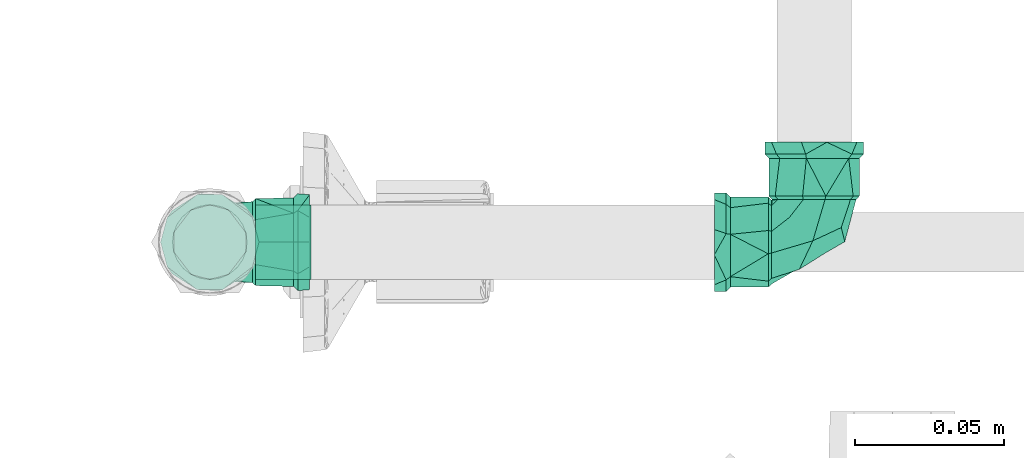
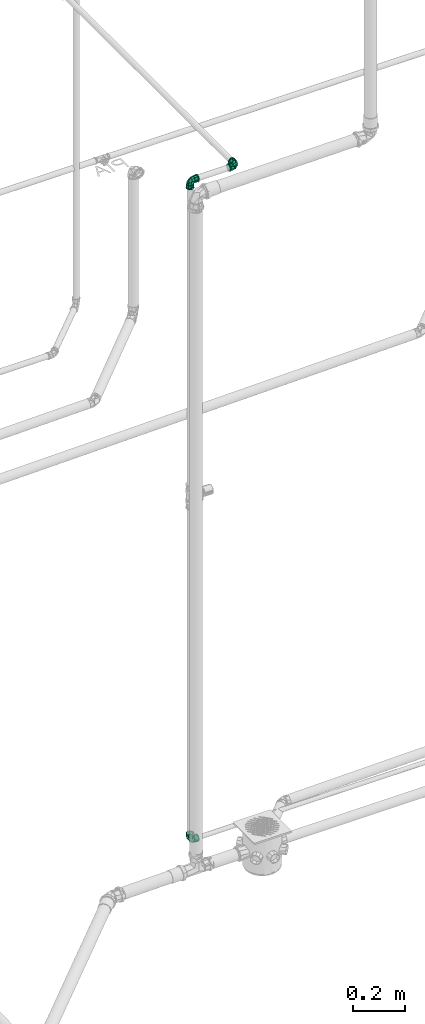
# One storey, part 307 of 589: 4 flow fittings.
"""IFC2X3 building model written with IfcOpenShell, lengths in millimetres."""

from ifc_helpers import new_model, entity, si_unit, converted_unit, derived_unit, direction, frame, frame_2d, origin, place, context, subcontext, project, spatial, hollow_circle, extrude, faceted_brep, source, transform, mapped, material, type_object, type_shapes, element, save


model = new_model("IFC2X3")

# Units and contexts
model_context = context("Model", 3, precision=0.01, world=origin(), true_north=direction((6.123031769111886e-17, 1.0)))
body_context = subcontext(model_context, "Body", "Model", "MODEL_VIEW")
ifc_project = project(units=[si_unit("LENGTHUNIT", "METRE", prefix="MILLI"), si_unit("AREAUNIT", "SQUARE_METRE"), si_unit("VOLUMEUNIT", "CUBIC_METRE"), converted_unit("PLANEANGLEUNIT", "DEGREE", entity("IfcRatioMeasure", 0.017453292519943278), si_unit("PLANEANGLEUNIT", "RADIAN"), dimensions=[0, 0, 0, 0, 0, 0, 0]), si_unit("MASSUNIT", "GRAM", prefix="KILO"), derived_unit("MASSDENSITYUNIT", [(si_unit("MASSUNIT", "GRAM", prefix="KILO"), 1), (si_unit("LENGTHUNIT", "METRE"), -3)]), derived_unit("IONCONCENTRATIONUNIT", [(si_unit("MASSUNIT", "GRAM", prefix="KILO"), 1), (si_unit("LENGTHUNIT", "METRE"), -3)]), derived_unit("MOMENTOFINERTIAUNIT", [(si_unit("LENGTHUNIT", "METRE"), 4)]), si_unit("TIMEUNIT", "SECOND"), si_unit("FREQUENCYUNIT", "HERTZ"), si_unit("THERMODYNAMICTEMPERATUREUNIT", "DEGREE_CELSIUS"), derived_unit("THERMALTRANSMITTANCEUNIT", [(si_unit("MASSUNIT", "GRAM", prefix="KILO"), 1), (si_unit("THERMODYNAMICTEMPERATUREUNIT", "KELVIN"), -1), (si_unit("TIMEUNIT", "SECOND"), -3)]), derived_unit("THERMALCONDUCTANCEUNIT", [(si_unit("MASSUNIT", "GRAM", prefix="KILO"), 1), (si_unit("THERMODYNAMICTEMPERATUREUNIT", "KELVIN"), -1), (si_unit("TIMEUNIT", "SECOND"), -3), (si_unit("LENGTHUNIT", "METRE"), 1)]), derived_unit("VOLUMETRICFLOWRATEUNIT", [(si_unit("LENGTHUNIT", "METRE"), 3), (si_unit("TIMEUNIT", "SECOND"), -1)]), derived_unit("MASSFLOWRATEUNIT", [(si_unit("MASSUNIT", "GRAM", prefix="KILO"), 1), (si_unit("TIMEUNIT", "SECOND"), -1)]), derived_unit("ROTATIONALFREQUENCYUNIT", [(si_unit("TIMEUNIT", "SECOND"), -1)]), si_unit("ELECTRICCURRENTUNIT", "AMPERE"), si_unit("ELECTRICVOLTAGEUNIT", "VOLT"), si_unit("POWERUNIT", "WATT"), si_unit("FORCEUNIT", "NEWTON", prefix="KILO"), si_unit("ILLUMINANCEUNIT", "LUX"), si_unit("LUMINOUSFLUXUNIT", "LUMEN"), si_unit("LUMINOUSINTENSITYUNIT", "CANDELA"), derived_unit("USERDEFINED", [(si_unit("MASSUNIT", "GRAM", prefix="KILO"), -1), (si_unit("LENGTHUNIT", "METRE"), -2), (si_unit("TIMEUNIT", "SECOND"), 3), (si_unit("LUMINOUSFLUXUNIT", "LUMEN"), 1)]), derived_unit("USERDEFINED", [(si_unit("MASSUNIT", "GRAM", prefix="KILO"), 1), (si_unit("TIMEUNIT", "SECOND"), -3), (si_unit("LENGTHUNIT", "METRE"), 3), (si_unit("ELECTRICCURRENTUNIT", "AMPERE"), -2)]), derived_unit("SOUNDPOWERUNIT", [(si_unit("MASSUNIT", "GRAM", prefix="KILO"), 1), (si_unit("TIMEUNIT", "SECOND"), -3), (si_unit("LENGTHUNIT", "METRE"), 2)]), derived_unit("SOUNDPRESSUREUNIT", [(si_unit("MASSUNIT", "GRAM", prefix="KILO"), 1), (si_unit("LENGTHUNIT", "METRE"), -1), (si_unit("TIMEUNIT", "SECOND"), -2)]), derived_unit("LINEARVELOCITYUNIT", [(si_unit("LENGTHUNIT", "METRE"), 1), (si_unit("TIMEUNIT", "SECOND"), -1)]), si_unit("PRESSUREUNIT", "PASCAL"), derived_unit("USERDEFINED", [(si_unit("MASSUNIT", "GRAM", prefix="KILO"), 1), (si_unit("LENGTHUNIT", "METRE"), -2), (si_unit("TIMEUNIT", "SECOND"), -2)]), derived_unit("LINEARFORCEUNIT", [(si_unit("MASSUNIT", "GRAM", prefix="KILO"), 1), (si_unit("TIMEUNIT", "SECOND"), -2)]), derived_unit("PLANARFORCEUNIT", [(si_unit("MASSUNIT", "GRAM", prefix="KILO"), 1), (si_unit("LENGTHUNIT", "METRE"), -1), (si_unit("TIMEUNIT", "SECOND"), -2)]), derived_unit("SPECIFICHEATCAPACITYUNIT", [(si_unit("THERMODYNAMICTEMPERATUREUNIT", "KELVIN"), -1), (si_unit("LENGTHUNIT", "METRE"), 2), (si_unit("TIMEUNIT", "SECOND"), -2)]), derived_unit("HEATINGVALUEUNIT", [(si_unit("LENGTHUNIT", "METRE"), 2), (si_unit("TIMEUNIT", "SECOND"), -2)]), derived_unit("VAPORPERMEABILITYUNIT", [(si_unit("LENGTHUNIT", "METRE"), -1), (si_unit("TIMEUNIT", "SECOND"), 1)]), derived_unit("DYNAMICVISCOSITYUNIT", [(si_unit("MASSUNIT", "GRAM", prefix="KILO"), 1), (si_unit("TIMEUNIT", "SECOND"), -1), (si_unit("LENGTHUNIT", "METRE"), -1)]), derived_unit("THERMALEXPANSIONCOEFFICIENTUNIT", [(si_unit("THERMODYNAMICTEMPERATUREUNIT", "KELVIN"), -1)]), derived_unit("MODULUSOFELASTICITYUNIT", [(si_unit("MASSUNIT", "GRAM", prefix="KILO"), 1), (si_unit("LENGTHUNIT", "METRE"), -1), (si_unit("TIMEUNIT", "SECOND"), -2)]), derived_unit("ISOTHERMALMOISTURECAPACITYUNIT", [(si_unit("LENGTHUNIT", "METRE"), 3), (si_unit("MASSUNIT", "GRAM", prefix="KILO"), -1)]), derived_unit("MOISTUREDIFFUSIVITYUNIT", [(si_unit("TIMEUNIT", "SECOND"), -1), (si_unit("LENGTHUNIT", "METRE"), 2)])], contexts=[model_context])

# Site, building, storey
site_placement = place(None, origin())
site = spatial("IfcSite", under=ifc_project, at=site_placement, Name="Default", CompositionType="ELEMENT")
building_placement = place(site_placement, origin())
building = spatial("IfcBuilding", under=site, at=building_placement, CompositionType="ELEMENT")
storey_placement = place(building_placement, frame((0.0, 0.0, 100.0)))
storey = spatial("IfcBuildingStorey", under=building, at=storey_placement, Name="TÉRREO", CompositionType="ELEMENT", Elevation=100.0)

# Flow fittings
ifc_material = material(Name="PVC Marrom")
pipe_fitting_type_1 = type_object("IfcPipeFittingType", Name="PVC Marrom Soldável_Joelho 45°_90°_Rodrigo MEP:Joelho", PredefinedType="NOTDEFINED", material=ifc_material)
shared_shape_1 = source(origin(), body_context, "Body", "Brep", [
    faceted_brep([(3.908167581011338, 15.40000000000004, 14.585479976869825), (13.076983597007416, 15.40000000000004, 7.549999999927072), (15.099999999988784, 15.40000000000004, 0.0), (13.076983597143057, 15.40000000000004, -7.55000000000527), (3.9081675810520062, 15.40000000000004, -14.585479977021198), (-3.9081675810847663, 15.40000000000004, -14.585479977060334), (-13.076983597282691, 15.40000000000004, -7.550000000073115), (-15.100000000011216, 15.40000000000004, 0.0), (-13.076983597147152, 15.40000000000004, 7.549999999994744), (-3.908167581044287, 15.40000000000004, 14.585479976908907), (-3.633819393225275, 14.30000000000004, 13.561598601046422), (-12.158996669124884, 14.30000000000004, 7.0199999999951), (-14.040000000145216, 14.30000000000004, 0.0), (-12.158996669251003, 14.30000000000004, -7.020000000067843), (-3.6338193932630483, 14.30000000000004, -13.561598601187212), (3.6338193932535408, 14.30000000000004, -13.561598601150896), (12.158996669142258, 14.30000000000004, -7.020000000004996), (14.039999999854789, 14.30000000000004, 0.0), (12.158996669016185, 14.30000000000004, 7.0199999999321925), (3.6338193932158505, 14.30000000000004, 13.561598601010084)], [[[0, 1, 2, 3, 4, 5, 6, 7, 8, 9]], [[10, 11, 12, 13, 14, 15, 16, 17, 18, 19]], [[3, 17, 16]], [[4, 3, 16, 15]], [[3, 2, 17]], [[15, 14, 5, 4]], [[6, 5, 14, 13]], [[7, 13, 12]], [[7, 6, 13]], [[8, 12, 11]], [[9, 8, 11, 10]], [[8, 7, 12]], [[10, 19, 0, 9]], [[1, 0, 19, 18]], [[2, 18, 17]], [[2, 1, 18]]]),
    faceted_brep([(-15.399999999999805, 3.908167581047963, 14.585479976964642), (-15.399999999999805, 13.076983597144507, 7.549999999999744), (-15.399999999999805, 15.100000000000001, 0.0), (-15.399999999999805, 13.076983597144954, -7.54999999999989), (-15.399999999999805, 3.9081675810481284, -14.58547997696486), (-15.399999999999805, -3.9081675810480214, -14.585479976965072), (-15.399999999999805, -13.0769835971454, -7.550000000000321), (-15.399999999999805, -15.099999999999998, 0.0), (-15.399999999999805, -13.076983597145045, 7.550000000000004), (-15.399999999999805, -3.908167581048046, 14.585479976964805), (-14.299999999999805, 12.158996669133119, 7.019999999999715), (-14.299999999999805, 3.6338193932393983, 13.561598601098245), (-14.299999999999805, -3.633819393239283, 13.56159860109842), (-14.299999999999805, -12.15899666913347, 7.020000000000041), (-14.299999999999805, -14.040000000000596, 0.0), (-14.299999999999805, -12.158996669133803, -7.020000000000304), (-14.299999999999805, -3.63381939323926, -13.561598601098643), (-14.299999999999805, 3.6338193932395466, -13.56159860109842), (-14.299999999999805, 12.158996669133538, -7.019999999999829), (-14.299999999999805, 14.03999999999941, 0.0)], [[[0, 1, 2, 3, 4, 5, 6, 7, 8, 9]], [[10, 11, 12, 13, 14, 15, 16, 17, 18, 19]], [[3, 2, 19, 18]], [[4, 3, 18, 17]], [[17, 16, 5, 4]], [[6, 5, 16, 15]], [[7, 6, 15, 14]], [[8, 7, 14, 13]], [[9, 8, 13, 12]], [[12, 11, 0, 9]], [[1, 0, 11, 10]], [[2, 1, 10, 19]]]),
    faceted_brep([(-33.4999999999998, -4.2705142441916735, -15.937776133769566), (-33.4999999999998, -6.250000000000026, -10.825317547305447), (-33.4999999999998, 0.0, -12.5), (-33.4999999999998, -14.289419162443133, -8.25000000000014), (-33.4999999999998, 4.270514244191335, -15.937776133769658), (-33.4999999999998, -12.074072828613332, -3.23523806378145), (-33.4999999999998, -16.499999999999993, 0.0), (-33.4999999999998, -12.074072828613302, 3.2352380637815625), (-33.4999999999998, -14.289419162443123, 8.249999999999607), (-33.4999999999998, -6.249999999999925, 10.825317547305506), (-33.4999999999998, -4.27051424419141, 15.937776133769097), (-33.4999999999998, 0.0, 12.5), (-33.4999999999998, 4.270514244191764, 15.937776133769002), (-33.4999999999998, 6.249999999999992, 10.825317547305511), (-33.4999999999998, 14.28941916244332, 8.249999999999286), (-33.4999999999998, 12.074072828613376, 3.2352380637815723), (-33.4999999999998, 16.500000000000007, 0.0), (-33.4999999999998, 12.074072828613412, -3.235238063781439), (-33.4999999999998, 14.289419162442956, -8.250000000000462), (-33.4999999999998, 6.250000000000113, -10.82531754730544), (-29.499999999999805, 16.5, 0.0), (-29.500000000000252, 12.639142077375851, 10.606700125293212), (-29.50000000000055, 2.8633833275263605, 16.249647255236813), (-29.50000000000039, -12.64180232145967, 10.603529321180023), (-29.499999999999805, -16.499999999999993, 0.0), (-29.500000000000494, -4.889209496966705, 13.426588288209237), (-29.49999999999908, -12.641802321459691, -10.603529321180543), (-29.49999999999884, -2.8674593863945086, -16.24892847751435), (-29.499999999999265, 12.639142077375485, -10.606700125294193), (-29.499999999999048, 4.885841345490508, -13.427814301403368), (-28.099999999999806, -15.099999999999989, 0.0), (-28.10000000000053, -11.56916454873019, 9.703835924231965), (-28.100000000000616, -4.474367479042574, 12.287362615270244), (-28.1000000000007, 2.6204295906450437, 14.870889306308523), (-28.100000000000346, 11.566730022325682, 9.706737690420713), (-28.09999999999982, 15.099999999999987, 0.0), (-28.099999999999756, 11.566730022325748, -9.706737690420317), (-28.09999999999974, 4.4712851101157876, -12.28848460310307), (-28.09999999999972, -2.6241598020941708, -14.870231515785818), (-28.09999999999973, -11.569164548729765, -9.703835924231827), (-15.399999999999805, 0.0, -12.5), (-15.399999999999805, -6.250000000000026, -10.825317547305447), (-15.399999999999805, -3.908167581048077, -14.585479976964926), (-15.399999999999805, 3.9081675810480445, -14.585479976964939), (-15.399999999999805, 6.250000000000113, -10.82531754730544), (-15.399999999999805, -13.076983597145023, -7.549999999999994), (-15.399999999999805, -12.074072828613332, -3.23523806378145), (-15.399999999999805, -15.099999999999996, 0.0), (-15.399999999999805, -12.074072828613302, 3.2352380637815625), (-15.399999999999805, -13.076983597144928, 7.550000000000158), (-15.399999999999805, -6.249999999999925, 10.825317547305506), (-15.399999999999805, -3.9081675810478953, 14.585479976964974), (-15.399999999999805, 0.0, 12.5), (-15.399999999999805, 3.9081675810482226, 14.58547997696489), (-15.399999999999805, 6.249999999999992, 10.825317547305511), (-15.399999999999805, 13.076983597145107, 7.549999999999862), (-15.399999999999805, 12.074072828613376, 3.2352380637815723), (-15.399999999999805, 15.100000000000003, 0.0), (-15.399999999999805, 12.074072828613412, -3.235238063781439), (-15.399999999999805, 13.076983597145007, -7.550000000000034)], [[[0, 1, 2]], [[1, 0, 3]], [[2, 4, 0]], [[3, 5, 1]], [[3, 6, 5]], [[5, 6, 7]], [[8, 7, 6]], [[7, 8, 9]], [[10, 9, 8]], [[9, 10, 11]], [[11, 10, 12]], [[12, 13, 11]], [[14, 13, 12]], [[13, 14, 15]], [[16, 15, 14]], [[16, 17, 15]], [[18, 17, 16]], [[19, 17, 18]], [[19, 18, 4]], [[4, 2, 19]], [[16, 14, 20]], [[14, 21, 20]], [[21, 14, 12]], [[21, 12, 22]], [[23, 10, 8]], [[24, 8, 6]], [[10, 23, 25, 22]], [[23, 8, 24]], [[10, 22, 12]], [[6, 3, 24]], [[3, 26, 24]], [[26, 3, 0]], [[26, 0, 27]], [[28, 4, 18]], [[20, 18, 16]], [[4, 28, 29, 27]], [[28, 18, 20]], [[4, 27, 0]], [[30, 31, 23, 24]], [[31, 32, 33, 22, 25, 23]], [[34, 35, 20, 21]], [[34, 21, 22, 33]], [[35, 36, 28, 20]], [[36, 37, 38, 27, 29, 28]], [[39, 30, 24, 26]], [[39, 26, 27, 38]], [[40, 41, 42]], [[42, 43, 40]], [[44, 40, 43]], [[45, 42, 41]], [[41, 46, 45]], [[46, 47, 45]], [[48, 47, 46]], [[47, 48, 49]], [[50, 49, 48]], [[49, 50, 51]], [[52, 51, 50]], [[53, 51, 52]], [[52, 54, 53]], [[53, 54, 55]], [[56, 55, 54]], [[55, 56, 57]], [[56, 58, 57]], [[59, 58, 44]], [[57, 58, 59]], [[43, 59, 44]], [[35, 34, 55]], [[35, 55, 57]], [[55, 34, 53]], [[34, 33, 53]], [[51, 33, 32, 31]], [[49, 31, 30]], [[31, 49, 51]], [[49, 30, 47]], [[33, 51, 53]], [[30, 39, 45]], [[30, 45, 47]], [[45, 39, 42]], [[39, 38, 42]], [[43, 38, 37, 36]], [[59, 36, 35]], [[36, 59, 43]], [[59, 35, 57]], [[38, 43, 42]], [[9, 11, 52, 50]], [[7, 9, 50, 48]], [[48, 46, 5, 7]], [[1, 5, 46, 41]], [[2, 1, 41, 40]], [[19, 2, 40, 44]], [[17, 19, 44, 58]], [[58, 56, 15, 17]], [[13, 15, 56, 54]], [[11, 13, 54, 52]]]),
    faceted_brep([(-14.299999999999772, -3.6338193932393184, -13.561598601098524), (-14.299999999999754, -12.158996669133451, -7.020000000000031), (-14.29999999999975, -14.039999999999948, 0.0), (-14.299999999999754, -12.158996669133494, 7.019999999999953), (-14.299999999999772, -3.6338193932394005, 13.561598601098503), (-14.299999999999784, 3.633819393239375, 13.561598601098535), (-14.299999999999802, 12.158996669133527, 7.0200000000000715), (-14.299999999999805, 14.04000000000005, 0.0), (-14.299999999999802, 12.158996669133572, -7.019999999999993), (-14.299999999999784, 3.63381939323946, -13.561598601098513), (3.633819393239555, 14.29999999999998, -13.561598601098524), (-3.633819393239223, 14.300000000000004, -13.561598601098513), (-12.158996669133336, 14.300000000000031, -7.019999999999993), (-14.039999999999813, 14.300000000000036, 0.0), (-12.158996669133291, 14.300000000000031, 7.0200000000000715), (-3.6338193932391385, 14.300000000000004, 13.561598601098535), (3.6338193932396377, 14.29999999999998, 13.561598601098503), (12.158996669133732, 14.299999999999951, 7.019999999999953), (14.040000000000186, 14.299999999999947, 0.0), (12.158996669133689, 14.299999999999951, -7.020000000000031), (-0.45476175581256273, 0.4547603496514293, 13.009299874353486), (-4.991226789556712, -9.102895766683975, 8.866254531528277), (-2.689013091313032, -7.336393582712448, 0.0), (3.7770734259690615, -3.6031967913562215, 0.0), (9.09033094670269, 4.905775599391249, 8.841582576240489), (10.243159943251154, 0.13000000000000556, 0.0), (-14.116152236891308, 14.116152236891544, 0.0), (-8.296884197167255, 8.29688403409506, 12.78130953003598), (-0.454761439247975, 0.45476027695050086, -13.009299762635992), (-8.296884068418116, 8.296883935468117, -12.78130960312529), (9.090330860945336, 4.90577564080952, -8.84158269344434), (-4.991226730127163, -9.10289574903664, -8.866254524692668)], [[[0, 1, 2, 3, 4, 5, 6, 7, 8, 9]], [[10, 11, 12, 13, 14, 15, 16, 17, 18, 19]], [[4, 20, 5]], [[21, 3, 22]], [[20, 4, 21]], [[21, 22, 23]], [[17, 24, 25]], [[26, 6, 14]], [[23, 20, 21]], [[26, 7, 6]], [[6, 5, 27]], [[3, 2, 22]], [[20, 23, 24]], [[25, 18, 17]], [[20, 27, 5]], [[16, 20, 24]], [[17, 16, 24]], [[6, 27, 14]], [[26, 14, 13]], [[21, 4, 3]], [[27, 15, 14]], [[27, 20, 15]], [[23, 25, 24]], [[15, 20, 16]], [[8, 7, 26]], [[28, 29, 11]], [[28, 10, 30]], [[8, 12, 29]], [[31, 22, 1]], [[31, 23, 22]], [[28, 9, 29]], [[19, 30, 10]], [[0, 28, 31]], [[1, 22, 2]], [[8, 26, 12]], [[12, 11, 29]], [[8, 29, 9]], [[31, 1, 0]], [[10, 28, 11]], [[30, 19, 25]], [[0, 9, 28]], [[19, 18, 25]], [[25, 23, 30]], [[23, 31, 28]], [[30, 23, 28]], [[12, 26, 13]]]),
    faceted_brep([(0.0, 15.40000000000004, -12.5), (-6.249999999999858, 15.40000000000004, -10.825317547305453), (-3.908167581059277, 15.40000000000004, -14.585479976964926), (3.9081675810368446, 15.40000000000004, -14.585479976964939), (6.250000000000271, 15.40000000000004, -10.82531754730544), (-13.076983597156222, 15.40000000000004, -7.549999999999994), (-12.07407282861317, 15.40000000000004, -3.235238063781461), (-15.100000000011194, 15.40000000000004, 0.0), (-12.074072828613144, 15.40000000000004, 3.2352380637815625), (-13.076983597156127, 15.40000000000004, 7.550000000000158), (-6.249999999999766, 15.40000000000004, 10.825317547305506), (-3.9081675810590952, 15.40000000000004, 14.585479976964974), (0.0, 15.40000000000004, 12.5), (3.9081675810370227, 15.40000000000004, 14.58547997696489), (6.250000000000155, 15.40000000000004, 10.825317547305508), (13.076983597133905, 15.40000000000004, 7.549999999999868), (12.074072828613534, 15.40000000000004, 3.2352380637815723), (15.099999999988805, 15.40000000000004, 0.0), (12.07407282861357, 15.40000000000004, -3.235238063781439), (13.07698359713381, 15.40000000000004, -7.550000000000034), (15.099999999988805, 28.10000000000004, 0.0), (11.56673002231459, 28.100000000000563, 9.706737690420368), (4.471285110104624, 28.10000000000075, 12.288484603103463), (-2.624159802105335, 28.100000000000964, 14.870231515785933), (-11.569164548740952, 28.10000000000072, 9.703835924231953), (-15.100000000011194, 28.10000000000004, 0.0), (-11.569164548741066, 28.10000000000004, -9.703835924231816), (-4.474367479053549, 28.10000000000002, -12.287362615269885), (2.6204295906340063, 28.099999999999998, -14.870889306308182), (11.566730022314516, 28.10000000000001, -9.706737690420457), (-12.639142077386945, 29.50000000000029, 10.606700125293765), (-16.50000000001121, 29.500000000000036, 0.0), (-2.8633833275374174, 29.50000000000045, 16.249647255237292), (12.641802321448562, 29.500000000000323, 10.603529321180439), (4.889209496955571, 29.500000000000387, 13.426588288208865), (16.499999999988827, 29.50000000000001, 0.0), (12.64180232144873, 29.500000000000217, -10.603529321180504), (2.867459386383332, 29.500000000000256, -16.24892847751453), (-12.639142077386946, 29.500000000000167, -10.606700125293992), (-4.885841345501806, 29.500000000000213, -13.427814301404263), (-4.270514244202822, 33.50000000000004, -15.937776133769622), (-6.249999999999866, 33.50000000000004, -10.825317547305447), (0.0, 33.50000000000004, -12.5), (-14.289419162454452, 33.50000000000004, -8.249999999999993), (4.270514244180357, 33.50000000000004, -15.937776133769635), (-12.074072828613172, 33.50000000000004, -3.23523806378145), (-16.50000000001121, 33.50000000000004, 0.0), (-12.074072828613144, 33.50000000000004, 3.2352380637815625), (-14.28941916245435, 33.50000000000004, 8.250000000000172), (-6.2499999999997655, 33.50000000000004, 10.825317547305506), (-4.270514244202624, 33.50000000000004, 15.937776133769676), (0.0, 33.50000000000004, 12.5), (4.270514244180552, 33.50000000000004, 15.937776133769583), (6.250000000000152, 33.50000000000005, 10.825317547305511), (14.289419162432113, 33.50000000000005, 8.249999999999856), (12.074072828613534, 33.50000000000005, 3.2352380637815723), (16.49999999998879, 33.50000000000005, 0.0), (12.07407282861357, 33.50000000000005, -3.235238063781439), (14.289419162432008, 33.50000000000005, -8.250000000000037), (6.250000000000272, 33.50000000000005, -10.82531754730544)], [[[0, 1, 2]], [[2, 3, 0]], [[4, 0, 3]], [[5, 2, 1]], [[1, 6, 5]], [[6, 7, 5]], [[8, 7, 6]], [[7, 8, 9]], [[10, 9, 8]], [[9, 10, 11]], [[12, 11, 10]], [[13, 11, 12]], [[12, 14, 13]], [[13, 14, 15]], [[16, 15, 14]], [[15, 16, 17]], [[16, 18, 17]], [[19, 18, 4]], [[17, 18, 19]], [[3, 19, 4]], [[20, 21, 15]], [[20, 15, 17]], [[15, 21, 13]], [[13, 21, 22, 23]], [[11, 23, 24]], [[9, 24, 25]], [[24, 9, 11]], [[9, 25, 7]], [[23, 11, 13]], [[25, 26, 5]], [[25, 5, 7]], [[5, 26, 2]], [[2, 26, 27, 28]], [[3, 28, 29]], [[19, 29, 20]], [[29, 19, 3]], [[19, 20, 17]], [[28, 3, 2]], [[24, 23, 30]], [[25, 24, 31]], [[31, 24, 30]], [[23, 32, 30]], [[21, 20, 33]], [[21, 33, 34]], [[22, 32, 23]], [[35, 33, 20]], [[32, 22, 34]], [[22, 21, 34]], [[20, 29, 36]], [[36, 35, 20]], [[37, 36, 29]], [[38, 39, 27]], [[29, 28, 37]], [[26, 25, 31]], [[38, 27, 26]], [[38, 26, 31]], [[28, 39, 37]], [[39, 28, 27]], [[40, 41, 42]], [[41, 40, 43]], [[42, 44, 40]], [[43, 45, 41]], [[43, 46, 45]], [[45, 46, 47]], [[48, 47, 46]], [[47, 48, 49]], [[50, 49, 48]], [[49, 50, 51]], [[51, 50, 52]], [[52, 53, 51]], [[54, 53, 52]], [[53, 54, 55]], [[56, 55, 54]], [[56, 57, 55]], [[58, 57, 56]], [[59, 57, 58]], [[59, 58, 44]], [[44, 42, 59]], [[56, 54, 35]], [[54, 33, 35]], [[33, 54, 52]], [[52, 32, 34, 33]], [[30, 50, 48]], [[31, 48, 46]], [[50, 30, 32]], [[30, 48, 31]], [[50, 32, 52]], [[46, 43, 31]], [[43, 38, 31]], [[38, 43, 40]], [[40, 37, 39, 38]], [[36, 44, 58]], [[35, 58, 56]], [[44, 36, 37]], [[36, 58, 35]], [[44, 37, 40]], [[49, 51, 12, 10]], [[47, 49, 10, 8]], [[8, 6, 45, 47]], [[41, 45, 6, 1]], [[42, 41, 1, 0]], [[59, 42, 0, 4]], [[57, 59, 4, 18]], [[18, 16, 55, 57]], [[53, 55, 16, 14]], [[51, 53, 14, 12]]]),
])
type_shapes(pipe_fitting_type_1, [shared_shape_1])
flow_fitting_1_placement = place(storey_placement, frame((-7362.272959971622, -7547.53128383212, 2970.0)))
element("IfcFlowFitting", 1, at=flow_fitting_1_placement, inside=storey, type_object=pipe_fitting_type_1, material=ifc_material, Name="PVC Marrom Soldável_Joelho 45°_90°_Rodrigo MEP:Joelho", ObjectType="PVC Marrom Soldável_Joelho 45°_90°_Rodrigo MEP:Joelho", context=body_context, shape_type="MappedRepresentation", body=[
    mapped(shared_shape_1, transform((0.0, 0.0, 0.0), scale=1.0)),
])
for number, where, z_axis, x_axis in (
    (2, (-7564.895534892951, -7547.53128383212, 2970.0), (0.0, 1.0, 0.0), (0.0, 0.0, 1.0)),
    (3, (-7564.895534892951, -7547.53128383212, -104.85493019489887), (0.0, -1.0, 0.0), (0.0, 0.0, -1.0)),
):
    element("IfcFlowFitting", number, at=place(storey_placement, frame(where, z_axis=z_axis, x_axis=x_axis)), inside=storey, type_object=pipe_fitting_type_1, material=ifc_material, Name="PVC Marrom Soldável_Joelho 45°_90°_Rodrigo MEP:Joelho", ObjectType="PVC Marrom Soldável_Joelho 45°_90°_Rodrigo MEP:Joelho", context=body_context, shape_type="MappedRepresentation", body=[
        mapped(shared_shape_1, transform((0.0, 0.0, 0.0), scale=1.0)),
    ])
pipe_fitting_type_2 = type_object("IfcPipeFittingType", Name="PVC Marrom Soldável_Bucha de Reducão Curta_Rodrigo MEP:Bucha de Redução Curta", PredefinedType="NOTDEFINED", material=ifc_material)
shared_shape_2 = source(origin(), body_context, "Body", "SweptSolid", [
    extrude(hollow_circle(Radius=12.5, WallThickness=2.5, at=frame_2d((0.0, -2.0194307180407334e-14), x_axis=(1.0, 0.0))), frame((0.0, 0.0, 0.0), z_axis=(1.0, 0.0, 0.0), x_axis=(0.0, -1.0, 0.0)), (0.0, 0.0, 1.0), 18.499999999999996),
])
type_shapes(pipe_fitting_type_2, [shared_shape_2])
flow_fitting_2_placement = place(storey_placement, frame((-7549.495534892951, -7547.53128383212, -104.854930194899)))
element("IfcFlowFitting", 4, at=flow_fitting_2_placement, inside=storey, type_object=pipe_fitting_type_2, material=ifc_material, Name="PVC Marrom Soldável_Bucha de Reducão Curta_Rodrigo MEP:Bucha de Redução Curta", ObjectType="PVC Marrom Soldável_Bucha de Reducão Curta_Rodrigo MEP:Bucha de Redução Curta", context=body_context, shape_type="MappedRepresentation", body=[
    mapped(shared_shape_2, transform((0.0, 0.0, 0.0), scale=1.0)),
])

save(model, "model.ifc")
